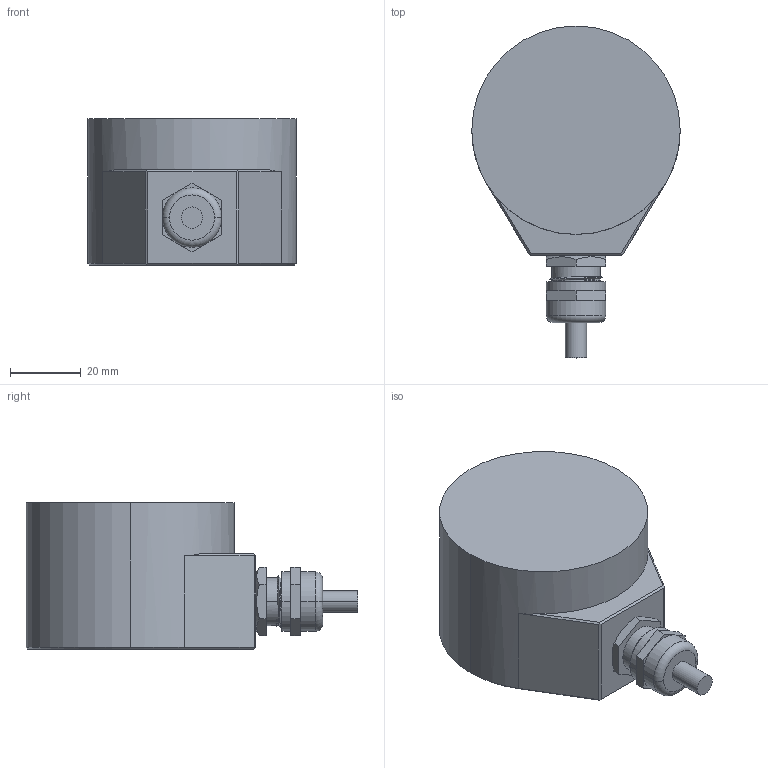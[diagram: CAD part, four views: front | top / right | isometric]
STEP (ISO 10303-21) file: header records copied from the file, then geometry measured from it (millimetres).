
FILE_DESCRIPTION (( 'STEP AP203' ), '1' );
FILE_NAME ('Drawing-OC-5-TR-415-ANM-TRB12T-T-CRW-N.STEP', '2013-12-04T12:22:50', ( 'Admin' ), ( 'Microsoft' ), 'SwSTEP 2.0', 'SolidWorks 2006104', '' );
FILE_SCHEMA (( 'CONFIG_CONTROL_DESIGN' ));
Length unit declared in the file: millimetre
Products named in the file (1): Drawing-OC-5-TR-415-ANM-TRB12T-T-CRW-N
Bounding box: 59 x 93.93 x 41.52 mm (x, y, z)
Volume: 27787.8 mm3; surface area: 29187.2 mm2
Topology: 6 solids, 6 shells, 419 faces, 1076 edges, 697 vertices
Faces by surface type: plane 184, bspline 84, cylinder 68, cone 63, torus 20
Entity records: 21214 total; most frequent: CARTESIAN_POINT 11477, ORIENTED_EDGE 2144, DIRECTION 1770, EDGE_CURVE 1072, VERTEX_POINT 697, AXIS2_PLACEMENT_3D 611, VECTOR 548, LINE 548
